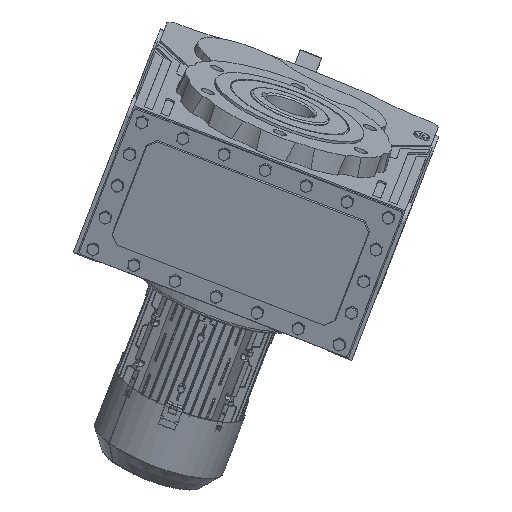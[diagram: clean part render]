
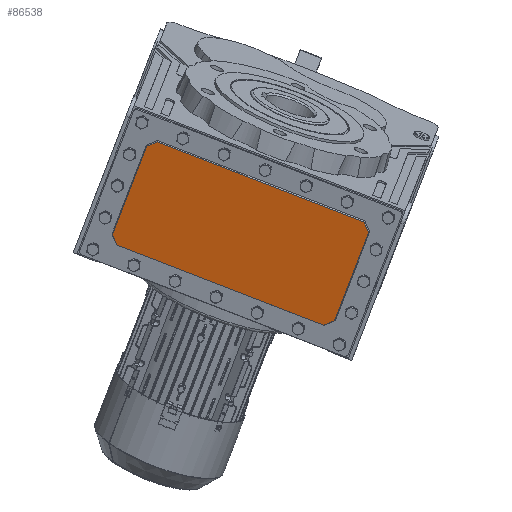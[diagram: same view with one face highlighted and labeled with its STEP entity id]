
A CAD part, front view. The second image highlights one B-rep face of the part: STEP entity #86538.
In plain terms, the highlighted planar face has unit normal (-0.097, -0.965, -0.245) as drawn and (0, -1, 0) by its records, which use the part's own axes.
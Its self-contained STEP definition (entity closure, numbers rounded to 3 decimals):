
#4869 = AXIS2_PLACEMENT_3D ( 'NONE', #115699, #115735, #115703 ) ;
#58823 = EDGE_LOOP ( 'NONE', ( #135199, #135174, #135193, #135144, #135180, #135176, #135183, #135204 ) ) ;
#60915 = VERTEX_POINT ( 'NONE', #111741 ) ;
#60987 = VERTEX_POINT ( 'NONE', #111819 ) ;
#61017 = VERTEX_POINT ( 'NONE', #111775 ) ;
#61032 = VERTEX_POINT ( 'NONE', #111788 ) ;
#80839 = VERTEX_POINT ( 'NONE', #118354 ) ;
#81498 = VERTEX_POINT ( 'NONE', #118352 ) ;
#83255 = VERTEX_POINT ( 'NONE', #118382 ) ;
#86538 = ADVANCED_FACE ( 'NONE', ( #176934 ), #115746, .T. ) ;
#108522 = CARTESIAN_POINT ( 'NONE',  ( -135.432, -145., 41.568 ) ) ;
#108551 = DIRECTION ( 'NONE',  ( -0.707, 0., 0.707 ) ) ;
#108559 = CARTESIAN_POINT ( 'NONE',  ( 125.432, -145., 162.432 ) ) ;
#108565 = DIRECTION ( 'NONE',  ( 0.707, 0., -0.707 ) ) ;
#108630 = DIRECTION ( 'NONE',  ( 0., 0., 1. ) ) ;
#108643 = CARTESIAN_POINT ( 'NONE',  ( -135.196, -145., 153. ) ) ;
#108653 = CARTESIAN_POINT ( 'NONE',  ( 135.196, -145., 153. ) ) ;
#108667 = DIRECTION ( 'NONE',  ( 0., 0., -1. ) ) ;
#108775 = DIRECTION ( 'NONE',  ( 0.707, 0., 0.707 ) ) ;
#108803 = CARTESIAN_POINT ( 'NONE',  ( -125.432, -145., 162.432 ) ) ;
#108840 = DIRECTION ( 'NONE',  ( -1., 0., 0. ) ) ;
#108886 = CARTESIAN_POINT ( 'NONE',  ( -126., -145., 31.804 ) ) ;
#108980 = DIRECTION ( 'NONE',  ( 1., 0., 0. ) ) ;
#108995 = CARTESIAN_POINT ( 'NONE',  ( -126., -145., 162.196 ) ) ;
#109131 = CARTESIAN_POINT ( 'NONE',  ( 135.432, -145., 41.568 ) ) ;
#109203 = DIRECTION ( 'NONE',  ( -0.707, 0., -0.707 ) ) ;
#109794 = VECTOR ( 'NONE', #108980, 1000. ) ;
#109810 = LINE ( 'NONE', #108995, #109794 ) ;
#109822 = VECTOR ( 'NONE', #109203, 1000. ) ;
#109842 = LINE ( 'NONE', #109131, #109822 ) ;
#110882 = VECTOR ( 'NONE', #108551, 1000. ) ;
#110885 = LINE ( 'NONE', #108559, #110906 ) ;
#110890 = LINE ( 'NONE', #108653, #110903 ) ;
#110903 = VECTOR ( 'NONE', #108667, 1000. ) ;
#110906 = VECTOR ( 'NONE', #108565, 1000. ) ;
#110916 = VECTOR ( 'NONE', #108630, 1000. ) ;
#110919 = LINE ( 'NONE', #108643, #110916 ) ;
#110931 = LINE ( 'NONE', #108522, #110882 ) ;
#110938 = VECTOR ( 'NONE', #108775, 1000. ) ;
#110950 = LINE ( 'NONE', #108886, #110982 ) ;
#110975 = LINE ( 'NONE', #108803, #110938 ) ;
#110982 = VECTOR ( 'NONE', #108840, 1000. ) ;
#111741 = CARTESIAN_POINT ( 'NONE',  ( -135.196, -145., 152.667 ) ) ;
#111775 = CARTESIAN_POINT ( 'NONE',  ( 135.196, -145., 152.667 ) ) ;
#111788 = CARTESIAN_POINT ( 'NONE',  ( 135.196, -145., 41.333 ) ) ;
#111819 = CARTESIAN_POINT ( 'NONE',  ( -125.667, -145., 162.196 ) ) ;
#115699 = CARTESIAN_POINT ( 'NONE',  ( 0., -145., 0. ) ) ;
#115703 = DIRECTION ( 'NONE',  ( 0., 0., -1. ) ) ;
#115735 = DIRECTION ( 'NONE',  ( 0., -1., 0. ) ) ;
#115746 = PLANE ( 'NONE',  #4869 ) ;
#118352 = CARTESIAN_POINT ( 'NONE',  ( 125.667, -145., 162.196 ) ) ;
#118354 = CARTESIAN_POINT ( 'NONE',  ( -135.196, -145., 41.333 ) ) ;
#118382 = CARTESIAN_POINT ( 'NONE',  ( 125.667, -145., 31.804 ) ) ;
#134010 = VERTEX_POINT ( 'NONE', #179919 ) ;
#135144 = ORIENTED_EDGE ( 'NONE', *, *, #157448, .F. ) ;
#135174 = ORIENTED_EDGE ( 'NONE', *, *, #157360, .F. ) ;
#135176 = ORIENTED_EDGE ( 'NONE', *, *, #157357, .F. ) ;
#135180 = ORIENTED_EDGE ( 'NONE', *, *, #157364, .F. ) ;
#135183 = ORIENTED_EDGE ( 'NONE', *, *, #157472, .F. ) ;
#135193 = ORIENTED_EDGE ( 'NONE', *, *, #157500, .F. ) ;
#135199 = ORIENTED_EDGE ( 'NONE', *, *, #157390, .F. ) ;
#135204 = ORIENTED_EDGE ( 'NONE', *, *, #157570, .F. ) ;
#157357 = EDGE_CURVE ( 'NONE', #134010, #80839, #110931, .T. ) ;
#157360 = EDGE_CURVE ( 'NONE', #81498, #61017, #110885, .T. ) ;
#157364 = EDGE_CURVE ( 'NONE', #80839, #60915, #110919, .T. ) ;
#157390 = EDGE_CURVE ( 'NONE', #61017, #61032, #110890, .T. ) ;
#157448 = EDGE_CURVE ( 'NONE', #60915, #60987, #110975, .T. ) ;
#157472 = EDGE_CURVE ( 'NONE', #83255, #134010, #110950, .T. ) ;
#157500 = EDGE_CURVE ( 'NONE', #60987, #81498, #109810, .T. ) ;
#157570 = EDGE_CURVE ( 'NONE', #61032, #83255, #109842, .T. ) ;
#176934 = FACE_OUTER_BOUND ( 'NONE', #58823, .T. ) ;
#179919 = CARTESIAN_POINT ( 'NONE',  ( -125.667, -145., 31.804 ) ) ;
